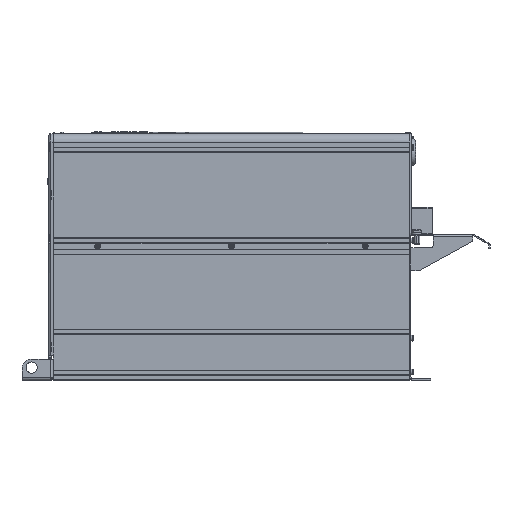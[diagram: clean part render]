
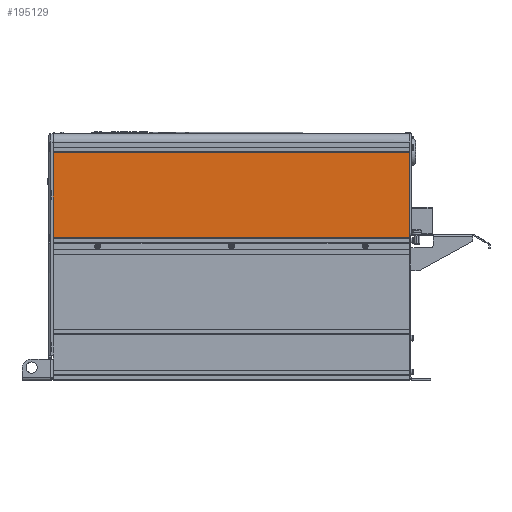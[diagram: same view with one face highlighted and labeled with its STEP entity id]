
A CAD part, left-side view. The second image highlights one B-rep face of the part: STEP entity #195129.
In plain terms, the highlighted planar face has unit normal (-1, 0, 0).
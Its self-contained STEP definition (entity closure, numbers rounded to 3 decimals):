
#3161=DIRECTION('',(0.,0.,1.));
#3162=VECTOR('',#3161,3.);
#3163=CARTESIAN_POINT('',(-151.5,-243.12,193.5));
#3164=LINE('',#3163,#3162);
#15667=DIRECTION('',(0.,0.,-1.));
#15668=VECTOR('',#15667,12.);
#15669=CARTESIAN_POINT('',(-151.5,236.875,255.5));
#15670=LINE('',#15669,#15668);
#53679=DIRECTION('',(0.,-1.,0.));
#53680=VECTOR('',#53679,479.995);
#53681=CARTESIAN_POINT('',(-151.5,236.875,191.6));
#53682=LINE('',#53681,#53680);
#53686=DIRECTION('',(0.,0.,-1.));
#53687=VECTOR('',#53686,51.9);
#53688=CARTESIAN_POINT('',(-151.5,236.875,243.5));
#53689=LINE('',#53688,#53687);
#53693=DIRECTION('',(0.,0.,-1.));
#53694=VECTOR('',#53693,51.5);
#53695=CARTESIAN_POINT('',(-151.5,236.875,307.));
#53696=LINE('',#53695,#53694);
#53700=DIRECTION('',(0.,1.,0.));
#53701=VECTOR('',#53700,479.995);
#53702=CARTESIAN_POINT('',(-151.5,-243.12,307.));
#53703=LINE('',#53702,#53701);
#53707=DIRECTION('',(0.,0.,-1.));
#53708=VECTOR('',#53707,110.5);
#53709=CARTESIAN_POINT('',(-151.5,-243.12,307.));
#53710=LINE('',#53709,#53708);
#53714=DIRECTION('',(0.,0.,1.));
#53715=VECTOR('',#53714,1.9);
#53716=CARTESIAN_POINT('',(-151.5,-243.12,191.6));
#53717=LINE('',#53716,#53715);
#133256=CARTESIAN_POINT('',(-151.5,236.875,243.5));
#133257=VERTEX_POINT('',#133256);
#133302=CARTESIAN_POINT('',(-151.5,236.875,255.5));
#133303=VERTEX_POINT('',#133302);
#133985=CARTESIAN_POINT('',(-151.5,-243.12,196.5));
#133987=VERTEX_POINT('',#133985);
#135018=CARTESIAN_POINT('',(-151.5,-243.12,193.5));
#135020=VERTEX_POINT('',#135018);
#137221=CARTESIAN_POINT('',(-151.5,-243.12,307.));
#137222=CARTESIAN_POINT('',(-151.5,236.875,307.));
#137223=VERTEX_POINT('',#137221);
#137224=VERTEX_POINT('',#137222);
#137229=CARTESIAN_POINT('',(-151.5,236.875,191.6));
#137230=CARTESIAN_POINT('',(-151.5,-243.12,191.6));
#137231=VERTEX_POINT('',#137229);
#137232=VERTEX_POINT('',#137230);
#195112=CARTESIAN_POINT('',(-151.5,236.875,320.));
#195113=DIRECTION('',(-1.,0.,0.));
#195114=DIRECTION('',(0.,0.,-1.));
#195115=AXIS2_PLACEMENT_3D('',#195112,#195113,#195114);
#195116=PLANE('',#195115);
#195118=ORIENTED_EDGE('',*,*,#195117,.F.);
#195119=ORIENTED_EDGE('',*,*,#195019,.F.);
#195120=ORIENTED_EDGE('',*,*,#152842,.F.);
#195121=ORIENTED_EDGE('',*,*,#195052,.F.);
#195123=ORIENTED_EDGE('',*,*,#195122,.F.);
#195124=ORIENTED_EDGE('',*,*,#152357,.T.);
#195125=ORIENTED_EDGE('',*,*,#144624,.F.);
#195126=ORIENTED_EDGE('',*,*,#159601,.F.);
#195127=EDGE_LOOP('',(#195118,#195119,#195120,#195121,#195123,#195124,#195125,
#195126));
#195128=FACE_OUTER_BOUND('',#195127,.F.);
#195129=ADVANCED_FACE('',(#195128),#195116,.T.);
#144624=EDGE_CURVE('',#135020,#133987,#3164,.T.);
#152357=EDGE_CURVE('',#137223,#133987,#53710,.T.);
#152842=EDGE_CURVE('',#133303,#133257,#15670,.T.);
#159601=EDGE_CURVE('',#137232,#135020,#53717,.T.);
#195019=EDGE_CURVE('',#133257,#137231,#53689,.T.);
#195052=EDGE_CURVE('',#137224,#133303,#53696,.T.);
#195117=EDGE_CURVE('',#137231,#137232,#53682,.T.);
#195122=EDGE_CURVE('',#137223,#137224,#53703,.T.);
